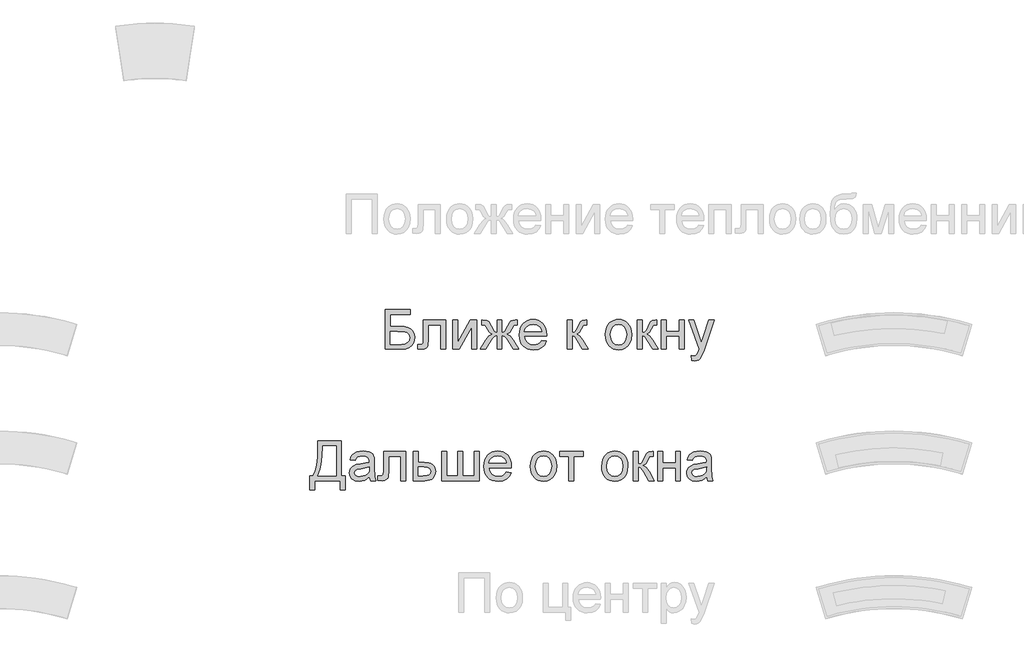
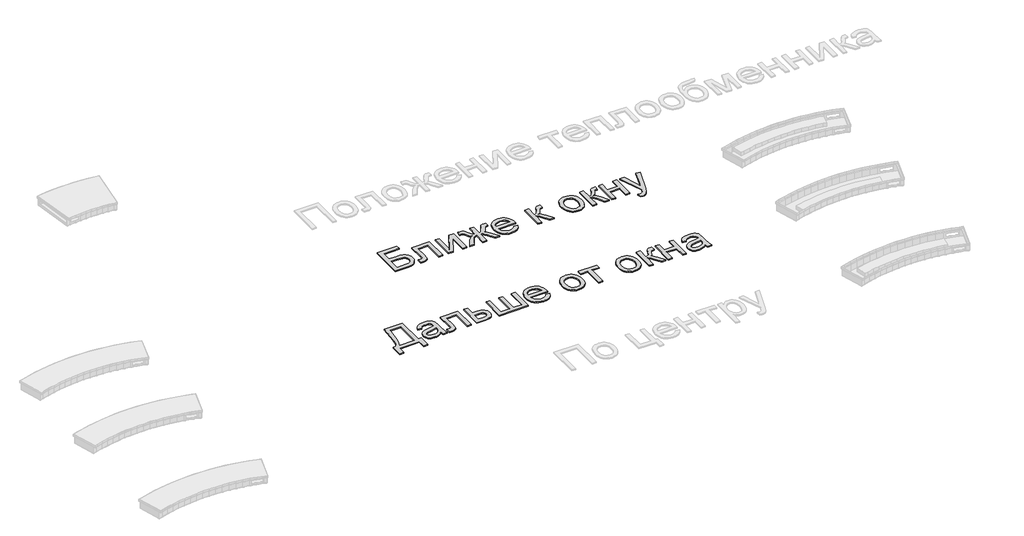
# One storey, part 7 of 9: 2 proxies.
"""IFC4 building model written with IfcOpenShell, lengths in millimetres."""

from ifc_helpers import new_model, si_unit, origin, origin_with_axes, place, context, project, spatial, polyline, outline, extrude, element, save

model = new_model("IFC4")

# Units and contexts
model_context = context("Model", 3, world=origin())
ifc_project = project(units=[si_unit("LENGTHUNIT", "METRE", prefix="MILLI")], contexts=[model_context])

# Site, building, storey
site = spatial("IfcSite", under=ifc_project)
building = spatial("IfcBuilding", under=site)
storey = spatial("IfcBuildingStorey", under=building, Name="Уровень 1", Elevation=0.0)

# Proxies
placement = place(None, origin())
element("IfcBuildingElementProxy", 1, Name="Текст модели 1", ObjectType="Текст модели 1", at=placement, inside=storey, context=model_context, shape_type="SweptSolid", body=[
    extrude(outline(polyline([(14364.4860682, -2424.9415006), (14552.8416498, -2424.9415006), (14552.8416498, -2462.6126169), (14402.1571845, -2462.6126169), (14402.1571845, -2552.0815182), (14472.7169512, -2552.0815182), (14507.7944994, -2553.9945045), (14534.8890084, -2559.7334637), (14555.6927352, -2570.7883176), (14571.8979371, -2588.6489885), (14582.3273917, -2611.6416132), (14585.8038765, -2638.0923286), (14583.3298701, -2660.3032041), (14575.9078509, -2681.0241575), (14563.574607, -2699.1699369), (14546.3669266, -2713.6552904), (14519.8242407, -2723.1466459), (14479.4859799, -2726.3104311), (14364.4860682, -2726.3104311), (14364.4860682, -2424.9415006)]), holes=[polyline([(14402.1571845, -2688.6393148), (14482.8704943, -2688.6393148), (14511.399743, -2685.5307119), (14531.7987996, -2676.2049033), (14544.0492701, -2660.661889), (14548.1327602, -2638.901669), (14545.7967095, -2622.6964671), (14538.7885575, -2609.397533), (14527.6141419, -2599.5382955), (14512.7793005, -2593.6521836), (14456.0151086, -2589.7526345), (14402.1571845, -2589.7526345), (14402.1571845, -2688.6393148)])]), origin_with_axes(), (0.0, 0.0, 1.0), 10.0),
    extrude(outline(polyline([(14651.7283301, -2504.9926228), (14821.2483534, -2504.9926228), (14821.2483534, -2726.0897019), (14783.5772371, -2726.0897019), (14783.5772371, -2542.6637391), (14689.3994464, -2542.6637391), (14689.3994464, -2648.2458717), (14686.8610606, -2696.9534479), (14682.1061858, -2707.9807107), (14672.918333, -2717.5180514), (14658.9756054, -2724.1123362), (14639.9561062, -2726.3104311), (14609.3483242, -2724.3974447), (14609.3483242, -2688.6393148), (14626.1973196, -2688.6393148), (14643.230256, -2686.3216582), (14650.0360729, -2678.9640183), (14651.7283301, -2646.1121561), (14651.7283301, -2504.9926228)])), origin_with_axes(), (0.0, 0.0, 1.0), 10.0),
    extrude(outline(polyline([(14877.7550279, -2504.9926228), (14915.4261442, -2504.9926228), (14915.4261442, -2673.7768822), (15007.9852542, -2504.9926228), (15056.6928303, -2504.9926228), (15056.6928303, -2726.3104311), (15019.021714, -2726.3104311), (15019.021714, -2558.5562413), (14927.0512152, -2726.3104311), (14877.7550279, -2726.3104311), (14877.7550279, -2504.9926228)])), origin_with_axes(), (0.0, 0.0, 1.0), 10.0),
    extrude(outline(polyline([(15249.7573014, -2504.9926228), (15249.7573014, -2599.1704135), (15263.0470385, -2597.229836), (15271.7198565, -2591.4081035), (15292.5051893, -2551.125025), (15305.4730296, -2526.0170788), (15317.3004357, -2512.4974155), (15331.6662276, -2506.868821), (15352.5435309, -2504.9926228), (15367.4795399, -2504.9926228), (15367.4795399, -2542.8844683), (15357.1052676, -2542.6637391), (15337.6810983, -2546.5632882), (15324.2166172, -2570.9906527), (15308.5816324, -2597.772462), (15286.2511953, -2611.3840958), (15298.6442201, -2616.686195), (15310.8808949, -2626.0441933), (15334.8851951, -2656.9278868), (15376.897319, -2726.3104311), (15333.7079727, -2726.3104311), (15292.3580365, -2657.88438), (15281.0548622, -2639.9225416), (15271.2783981, -2629.4471018), (15261.3915695, -2624.3979214), (15249.7573014, -2622.7148612), (15249.7573014, -2726.3104311), (15212.0861851, -2726.3104311), (15212.0861851, -2622.7148612), (15200.5438875, -2624.3611332), (15190.6386648, -2629.299949), (15180.7886244, -2639.7018124), (15169.4118737, -2657.7372272), (15128.0619374, -2726.3104311), (15084.9461676, -2726.3104311), (15126.8111386, -2656.9278868), (15150.9993798, -2626.0441933), (15163.300434, -2616.686195), (15175.739444, -2611.3840958), (15161.355258, -2604.1736087), (15152.0478435, -2596.3745104), (15131.7407574, -2557.7469009), (15121.8079435, -2545.0181839), (15105.5475593, -2542.4430099), (15094.3639467, -2542.6637391), (15094.3639467, -2504.9926228), (15100.0293294, -2504.9926228), (15133.0651325, -2507.3470676), (15150.2084335, -2517.3534578), (15169.4118737, -2551.125025), (15189.9764772, -2591.1505861), (15198.6492952, -2597.1654567), (15212.0861851, -2599.1704135), (15212.0861851, -2504.9926228), (15249.7573014, -2504.9926228)])), origin_with_axes(), (0.0, 0.0, 1.0), 10.0),
    extrude(outline(polyline([(15550.6847735, -2660.3859775), (15587.6201258, -2665.0948671), (15574.3119946, -2692.92514), (15553.0760064, -2713.7288668), (15524.3904079, -2726.6967072), (15488.7334455, -2731.0193206), (15465.3591432, -2729.1546188), (15444.5324238, -2723.5605132), (15426.2532871, -2714.2370039), (15410.5217333, -2701.1840908), (15397.8711912, -2684.7650575), (15388.8350897, -2665.3431874), (15383.4134288, -2642.9184806), (15381.6062085, -2617.4909369), (15383.4318229, -2591.2011698), (15388.9086661, -2568.0292027), (15398.0367381, -2547.9750354), (15410.8160389, -2531.038668), (15426.506206, -2517.5833841), (15444.3668769, -2507.9724669), (15464.3980515, -2502.2059167), (15486.5997299, -2500.2837332), (15508.0863377, -2502.2013181), (15527.5174048, -2507.9540728), (15544.8929313, -2517.5419973), (15560.2129171, -2530.9650916), (15572.7186057, -2547.8646708), (15581.6512404, -2567.8820499), (15587.0108212, -2591.0172288), (15588.7973482, -2617.2702077), (15588.576619, -2627.4237508), (15419.2773248, -2627.4237508), (15425.7980332, -2655.6219057), (15440.9455743, -2676.3520561), (15462.8069619, -2689.0991673), (15489.4692095, -2693.3482043), (15509.5187782, -2691.3800356), (15526.4045618, -2685.4755296), (15540.1265602, -2675.2668043), (15550.6847735, -2660.3859775)]), holes=[polyline([(15419.2773248, -2589.7526345), (15551.1262319, -2589.7526345), (15546.0310662, -2569.8502185), (15536.0430701, -2555.6131853), (15514.080515, -2542.3694335), (15486.4525771, -2537.9548496), (15461.0595224, -2541.4773197), (15440.0626575, -2552.04473), (15425.4669394, -2568.5166463), (15419.2773248, -2589.7526345)])]), origin_with_axes(), (0.0, 0.0, 1.0), 10.0),
    extrude(outline(polyline([(15744.1907029, -2504.9926228), (15781.8618192, -2504.9926228), (15781.8618192, -2599.1704135), (15797.1841043, -2597.4781564), (15807.0985241, -2592.4013848), (15815.8725097, -2579.157633), (15827.7734922, -2552.964435), (15844.9535814, -2518.9353504), (15860.1103196, -2507.8621023), (15887.6646811, -2504.9926228), (15894.8751682, -2504.9926228), (15894.8751682, -2542.8844683), (15884.7216251, -2542.6637391), (15866.3275253, -2546.6368646), (15853.3780791, -2571.4321111), (15838.1845527, -2598.2507086), (15816.8841852, -2611.3840958), (15828.8219559, -2616.686195), (15840.6493621, -2626.0441933), (15863.9730806, -2656.9278868), (15904.2929472, -2726.3104311), (15861.471483, -2726.3104311), (15821.9609567, -2658.3994148), (15802.095329, -2629.6678309), (15792.8063086, -2624.4531037), (15781.8618192, -2622.7148612), (15781.8618192, -2726.3104311), (15744.1907029, -2726.3104311), (15744.1907029, -2504.9926228)])), origin_with_axes(), (0.0, 0.0, 1.0), 10.0),
    extrude(outline(polyline([(16036.1418543, -2615.6515269), (16038.1790009, -2586.988921), (16044.2904405, -2562.2902435), (16054.4761732, -2541.5554946), (16068.7361991, -2524.7846741), (16083.0927939, -2514.0655125), (16098.9393109, -2506.4089685), (16116.2757499, -2501.815042), (16135.102111, -2500.2837332), (16155.8851445, -2502.1484351), (16174.6770166, -2507.7425407), (16191.4777275, -2517.06605), (16206.2872771, -2530.1189631), (16218.3744999, -2546.4598214), (16227.0082305, -2565.6471667), (16232.1884688, -2587.680999), (16233.9152149, -2612.5613182), (16230.8617944, -2650.6187106), (16221.7015327, -2679.5894177), (16206.7011443, -2701.2852584), (16186.1273437, -2717.5180514), (16161.6907822, -2727.6440033), (16135.102111, -2731.0193206), (16114.0155749, -2729.1615165), (16095.0489588, -2723.5881043), (16078.2022627, -2714.2990839), (16063.4754865, -2701.2944554), (16051.5170224, -2684.7949479), (16042.9752624, -2665.0212907), (16037.8502063, -2641.9734837), (16036.1418543, -2615.6515269)]), holes=[polyline([(16073.8129706, -2615.5779505), (16078.1723723, -2649.6714144), (16091.2505772, -2673.9608232), (16110.9322639, -2688.501359), (16135.102111, -2693.3482043), (16159.1615935, -2688.4737679), (16178.806492, -2673.8504586), (16191.884697, -2649.2391531), (16196.2440986, -2614.4007281), (16191.8571058, -2581.3005456), (16178.6961274, -2557.3422307), (16159.0236377, -2542.8016948), (16135.102111, -2537.9548496), (16110.9322639, -2542.7833007), (16091.2505772, -2557.2686543), (16078.1723723, -2581.5028807), (16073.8129706, -2615.5779505)])]), origin_with_axes(), (0.0, 0.0, 1.0), 10.0),
    extrude(outline(polyline([(16276.2952208, -2504.9926228), (16313.9663371, -2504.9926228), (16313.9663371, -2599.1704135), (16329.2886222, -2597.4781564), (16339.2030419, -2592.4013848), (16347.9770275, -2579.157633), (16359.8780101, -2552.964435), (16377.0580992, -2518.9353504), (16392.2148374, -2507.8621023), (16419.7691989, -2504.9926228), (16426.979686, -2504.9926228), (16426.979686, -2542.8844683), (16416.8261429, -2542.6637391), (16398.4320432, -2546.6368646), (16385.4825969, -2571.4321111), (16370.2890705, -2598.2507086), (16348.988703, -2611.3840958), (16360.9264737, -2616.686195), (16372.7538799, -2626.0441933), (16396.0775984, -2656.9278868), (16436.3974651, -2726.3104311), (16393.5760008, -2726.3104311), (16354.0654745, -2658.3994148), (16334.1998468, -2629.6678309), (16324.9108264, -2624.4531037), (16313.9663371, -2622.7148612), (16313.9663371, -2726.3104311), (16276.2952208, -2726.3104311), (16276.2952208, -2504.9926228)])), origin_with_axes(), (0.0, 0.0, 1.0), 10.0),
    extrude(outline(polyline([(16459.9419128, -2504.9926228), (16497.6130291, -2504.9926228), (16497.6130291, -2589.7526345), (16596.4997094, -2589.7526345), (16596.4997094, -2504.9926228), (16634.1708257, -2504.9926228), (16634.1708257, -2726.3104311), (16596.4997094, -2726.3104311), (16596.4997094, -2627.4237508), (16497.6130291, -2627.4237508), (16497.6130291, -2726.3104311), (16459.9419128, -2726.3104311), (16459.9419128, -2504.9926228)])), origin_with_axes(), (0.0, 0.0, 1.0), 10.0),
    extrude(outline(polyline([(16690.6775001, -2811.0704428), (16685.9686106, -2774.797278), (16705.0984743, -2778.108216), (16722.9775393, -2773.9511495), (16733.9404228, -2762.3628666), (16744.2411186, -2734.6245642), (16747.1841746, -2725.5010907), (16667.1330524, -2504.9926228), (16706.8643079, -2504.9926228), (16749.3178902, -2627.8652092), (16764.1067464, -2677.0142437), (16778.8956026, -2633.6041683), (16822.5264072, -2504.9926228), (16861.9633571, -2504.9926228), (16784.9288673, -2731.6079318), (16764.9160868, -2780.7569664), (16754.6705732, -2796.4471335), (16743.0638962, -2807.3180464), (16729.5810211, -2813.6640108), (16713.706913, -2815.7793323), (16690.6775001, -2811.0704428)])), origin_with_axes(), (0.0, 0.0, 1.0), 10.0),
])
element("IfcBuildingElementProxy", 2, Name="Текст модели 1", ObjectType="Текст модели 1", at=placement, inside=storey, context=model_context, shape_type="SweptSolid", body=[
    extrude(outline(polyline([(13851.2171086, -3424.9415006), (14030.154911, -3424.9415006), (14030.154911, -3688.6393148), (14058.4082482, -3688.6393148), (14058.4082482, -3796.9437742), (14020.7371319, -3796.9437742), (14020.7371319, -3726.3104311), (13827.6726609, -3726.3104311), (13827.6726609, -3796.9437742), (13790.0015446, -3796.9437742), (13790.0015446, -3688.6393148), (13813.5459922, -3688.6393148), (13830.0271056, -3654.4676759), (13841.7993295, -3606.3992948), (13848.8626638, -3544.4341712), (13851.2171086, -3468.5723053), (13851.2171086, -3424.9415006)]), holes=[polyline([(13992.4837947, -3462.6126169), (13888.8882249, -3462.6126169), (13888.8882249, -3477.7693551), (13881.2362794, -3580.997043), (13869.9055139, -3640.6491085), (13851.2171086, -3688.6393148), (13992.4837947, -3688.6393148), (13992.4837947, -3462.6126169)])]), origin_with_axes(), (0.0, 0.0, 1.0), 10.0),
    extrude(outline(polyline([(14242.0549402, -3698.0570939), (14224.0563136, -3713.4897435), (14205.5242581, -3723.5881043), (14186.0357094, -3729.1615165), (14165.1676032, -3731.0193206), (14133.6861015, -3726.5495544), (14110.4635506, -3713.1402557), (14096.1437439, -3692.7779872), (14091.370475, -3667.4493119), (14093.1730968, -3651.8327212), (14098.5809621, -3637.6508702), (14106.9226864, -3625.5107644), (14117.5268849, -3616.0194089), (14143.9040239, -3603.6585739), (14176.4983687, -3597.9931912), (14215.0156136, -3592.0335028), (14241.834211, -3585.0437449), (14242.0549402, -3576.6560354), (14239.4613722, -3559.8438283), (14231.680668, -3548.8441566), (14214.2798496, -3540.6771763), (14190.0364261, -3537.9548496), (14167.5956244, -3539.7666684), (14151.9238514, -3545.2021249), (14141.2368795, -3555.2545004), (14133.7504808, -3570.9170763), (14096.0793645, -3566.2081868), (14102.618467, -3545.6067951), (14112.3765369, -3529.4199873), (14126.2640822, -3517.0407581), (14145.1916109, -3507.8621023), (14168.3405854, -3502.1783255), (14194.8924684, -3500.2837332), (14220.3590996, -3501.9575963), (14240.546624, -3506.9791856), (14255.7677416, -3514.5299635), (14266.3351519, -3523.7913927), (14273.3433039, -3535.2417198), (14277.8866466, -3549.3591914), (14279.7260565, -3582.3214182), (14279.7260565, -3629.1895844), (14281.6390429, -3694.6357913), (14289.1438356, -3726.3104311), (14251.4727193, -3726.3104311), (14242.0549402, -3698.0570939)]), holes=[polyline([(14242.0549402, -3622.7148612), (14181.2808346, -3634.2663559), (14148.8704309, -3640.373197), (14134.1919392, -3650.3060109), (14129.0415913, -3664.8005615), (14131.8466915, -3676.0025682), (14140.2619922, -3685.181224), (14154.1035522, -3691.3064592), (14173.1874307, -3693.3482043), (14193.4209405, -3691.0949271), (14211.3000054, -3684.3350954), (14225.794556, -3674.3746904), (14235.8745227, -3662.5196931), (14240.344289, -3650.3060109), (14241.834211, -3633.3834391), (14242.0549402, -3622.7148612)])]), origin_with_axes(), (0.0, 0.0, 1.0), 10.0),
    extrude(outline(polyline([(14350.3593996, -3504.9926228), (14519.879423, -3504.9926228), (14519.879423, -3726.0897019), (14482.2083067, -3726.0897019), (14482.2083067, -3542.6637391), (14388.0305159, -3542.6637391), (14388.0305159, -3648.2458717), (14385.4921301, -3696.9534479), (14380.7372554, -3707.9807107), (14371.5494025, -3717.5180514), (14357.6066749, -3724.1123362), (14338.5871758, -3726.3104311), (14307.9793938, -3724.3974447), (14307.9793938, -3688.6393148), (14324.8283891, -3688.6393148), (14341.8613255, -3686.3216582), (14348.6671424, -3678.9640183), (14350.3593996, -3646.1121561), (14350.3593996, -3504.9926228)])), origin_with_axes(), (0.0, 0.0, 1.0), 10.0),
    extrude(outline(polyline([(14576.3860974, -3504.9926228), (14614.0572138, -3504.9926228), (14614.0572138, -3585.0437449), (14657.4672892, -3585.0437449), (14695.1016173, -3589.7618315), (14710.2491584, -3595.6594398), (14722.9502843, -3603.9160913), (14732.9934628, -3614.2466776), (14740.1671617, -3626.36609), (14745.9061208, -3655.9713936), (14741.0224873, -3682.9279468), (14726.3715869, -3705.6722512), (14715.1396897, -3714.7014549), (14700.9785322, -3721.1508861), (14663.8684359, -3726.3104311), (14576.3860974, -3726.3104311), (14576.3860974, -3504.9926228)]), holes=[polyline([(14614.0572138, -3688.6393148), (14649.2267325, -3688.6393148), (14676.5143795, -3686.6619491), (14694.6601589, -3680.7298519), (14704.8412931, -3670.6039), (14708.2350045, -3656.04497), (14705.7242099, -3643.7393173), (14698.191826, -3632.8684043), (14682.0510035, -3625.253247), (14653.7148928, -3622.7148612), (14614.0572138, -3622.7148612), (14614.0572138, -3688.6393148)])]), origin_with_axes(), (0.0, 0.0, 1.0), 10.0),
    extrude(outline(polyline([(14792.9950162, -3504.9926228), (14830.6661325, -3504.9926228), (14830.6661325, -3688.6393148), (14915.4261442, -3688.6393148), (14915.4261442, -3504.9926228), (14953.0972605, -3504.9926228), (14953.0972605, -3688.6393148), (15037.8572722, -3688.6393148), (15037.8572722, -3504.9926228), (15075.5283885, -3504.9926228), (15075.5283885, -3726.3104311), (14792.9950162, -3726.3104311), (14792.9950162, -3504.9926228)])), origin_with_axes(), (0.0, 0.0, 1.0), 10.0),
    extrude(outline(polyline([(15282.2780698, -3660.3859775), (15319.2134221, -3665.0948671), (15305.9052909, -3692.92514), (15284.6693028, -3713.7288668), (15255.9837042, -3726.6967072), (15220.3267418, -3731.0193206), (15196.9524395, -3729.1546188), (15176.1257201, -3723.5605132), (15157.8465834, -3714.2370039), (15142.1150296, -3701.1840908), (15129.4644875, -3684.7650575), (15120.428386, -3665.3431874), (15115.0067251, -3642.9184806), (15113.1995048, -3617.4909369), (15115.0251192, -3591.2011698), (15120.5019624, -3568.0292027), (15129.6300344, -3547.9750354), (15142.4093352, -3531.038668), (15158.0995023, -3517.5833841), (15175.9601732, -3507.9724669), (15195.9913478, -3502.2059167), (15218.1930262, -3500.2837332), (15239.679634, -3502.2013181), (15259.1107011, -3507.9540728), (15276.4862276, -3517.5419973), (15291.8062135, -3530.9650916), (15304.311902, -3547.8646708), (15313.2445367, -3567.8820499), (15318.6041176, -3591.0172288), (15320.3906445, -3617.2702077), (15320.1699153, -3627.4237508), (15150.8706211, -3627.4237508), (15157.3913295, -3655.6219057), (15172.5388706, -3676.3520561), (15194.4002582, -3689.0991673), (15221.0625058, -3693.3482043), (15241.1120745, -3691.3800356), (15257.9978581, -3685.4755296), (15271.7198565, -3675.2668043), (15282.2780698, -3660.3859775)]), holes=[polyline([(15150.8706211, -3589.7526345), (15282.7195282, -3589.7526345), (15277.6243626, -3569.8502185), (15267.6363664, -3555.6131853), (15245.6738113, -3542.3694335), (15218.0458734, -3537.9548496), (15192.6528187, -3541.4773197), (15171.6559538, -3552.04473), (15157.0602357, -3568.5166463), (15150.8706211, -3589.7526345)])]), origin_with_axes(), (0.0, 0.0, 1.0), 10.0),
    extrude(outline(polyline([(15466.3662202, -3615.6515269), (15468.4033667, -3586.988921), (15474.5148064, -3562.2902435), (15484.7005391, -3541.5554946), (15498.9605649, -3524.7846741), (15513.3171598, -3514.0655125), (15529.1636768, -3506.4089685), (15546.5001158, -3501.815042), (15565.3264769, -3500.2837332), (15586.1095103, -3502.1484351), (15604.9013825, -3507.7425407), (15621.7020934, -3517.06605), (15636.5116429, -3530.1189631), (15648.5988658, -3546.4598214), (15657.2325963, -3565.6471667), (15662.4128347, -3587.680999), (15664.1395808, -3612.5613182), (15661.0861602, -3650.6187106), (15651.9258985, -3679.5894177), (15636.9255102, -3701.2852584), (15616.3517096, -3717.5180514), (15591.9151481, -3727.6440033), (15565.3264769, -3731.0193206), (15544.2399408, -3729.1615165), (15525.2733247, -3723.5881043), (15508.4266285, -3714.2990839), (15493.6998524, -3701.2944554), (15481.7413883, -3684.7949479), (15473.1996282, -3665.0212907), (15468.0745722, -3641.9734837), (15466.3662202, -3615.6515269)]), holes=[polyline([(15504.0373365, -3615.5779505), (15508.3967381, -3649.6714144), (15521.4749431, -3673.9608232), (15541.1566298, -3688.501359), (15565.3264769, -3693.3482043), (15589.3859594, -3688.4737679), (15609.0308579, -3673.8504586), (15622.1090628, -3649.2391531), (15626.4684645, -3614.4007281), (15622.0814717, -3581.3005456), (15608.9204933, -3557.3422307), (15589.2480036, -3542.8016948), (15565.3264769, -3537.9548496), (15541.1566298, -3542.7833007), (15521.4749431, -3557.2686543), (15508.3967381, -3581.5028807), (15504.0373365, -3615.5779505)])]), origin_with_axes(), (0.0, 0.0, 1.0), 10.0),
    extrude(outline(polyline([(15687.6840285, -3504.9926228), (15866.6218309, -3504.9926228), (15866.6218309, -3542.6637391), (15795.9884879, -3542.6637391), (15795.9884879, -3726.3104311), (15758.3173715, -3726.3104311), (15758.3173715, -3542.6637391), (15687.6840285, -3542.6637391), (15687.6840285, -3504.9926228)])), origin_with_axes(), (0.0, 0.0, 1.0), 10.0),
    extrude(outline(polyline([(16007.8885171, -3615.6515269), (16009.9256636, -3586.988921), (16016.0371033, -3562.2902435), (16026.222836, -3541.5554946), (16040.4828619, -3524.7846741), (16054.8394567, -3514.0655125), (16070.6859737, -3506.4089685), (16088.0224127, -3501.815042), (16106.8487738, -3500.2837332), (16127.6318072, -3502.1484351), (16146.4236794, -3507.7425407), (16163.2243903, -3517.06605), (16178.0339398, -3530.1189631), (16190.1211627, -3546.4598214), (16198.7548932, -3565.6471667), (16203.9351316, -3587.680999), (16205.6618777, -3612.5613182), (16202.6084571, -3650.6187106), (16193.4481954, -3679.5894177), (16178.4478071, -3701.2852584), (16157.8740065, -3717.5180514), (16133.437445, -3727.6440033), (16106.8487738, -3731.0193206), (16085.7622377, -3729.1615165), (16066.7956216, -3723.5881043), (16049.9489254, -3714.2990839), (16035.2221493, -3701.2944554), (16023.2636852, -3684.7949479), (16014.7219251, -3665.0212907), (16009.5968691, -3641.9734837), (16007.8885171, -3615.6515269)]), holes=[polyline([(16045.5596334, -3615.5779505), (16049.919035, -3649.6714144), (16062.99724, -3673.9608232), (16082.6789267, -3688.501359), (16106.8487738, -3693.3482043), (16130.9082563, -3688.4737679), (16150.5531548, -3673.8504586), (16163.6313597, -3649.2391531), (16167.9907614, -3614.4007281), (16163.6037686, -3581.3005456), (16150.4427902, -3557.3422307), (16130.7703005, -3542.8016948), (16106.8487738, -3537.9548496), (16082.6789267, -3542.7833007), (16062.99724, -3557.2686543), (16049.919035, -3581.5028807), (16045.5596334, -3615.5779505)])]), origin_with_axes(), (0.0, 0.0, 1.0), 10.0),
    extrude(outline(polyline([(16248.0418835, -3504.9926228), (16285.7129998, -3504.9926228), (16285.7129998, -3599.1704135), (16301.0352849, -3597.4781564), (16310.9497047, -3592.4013848), (16319.7236903, -3579.157633), (16331.6246728, -3552.964435), (16348.804762, -3518.9353504), (16363.9615002, -3507.8621023), (16391.5158616, -3504.9926228), (16398.7263488, -3504.9926228), (16398.7263488, -3542.8844683), (16388.5728057, -3542.6637391), (16370.1787059, -3546.6368646), (16357.2292597, -3571.4321111), (16342.0357333, -3598.2507086), (16320.7353658, -3611.3840958), (16332.6731365, -3616.686195), (16344.5005427, -3626.0441933), (16367.8242612, -3656.9278868), (16408.1441278, -3726.3104311), (16365.3226636, -3726.3104311), (16325.8121373, -3658.3994148), (16305.9465096, -3629.6678309), (16296.6574892, -3624.4531037), (16285.7129998, -3622.7148612), (16285.7129998, -3726.3104311), (16248.0418835, -3726.3104311), (16248.0418835, -3504.9926228)])), origin_with_axes(), (0.0, 0.0, 1.0), 10.0),
    extrude(outline(polyline([(16431.6885755, -3504.9926228), (16469.3596918, -3504.9926228), (16469.3596918, -3589.7526345), (16568.2463721, -3589.7526345), (16568.2463721, -3504.9926228), (16605.9174884, -3504.9926228), (16605.9174884, -3726.3104311), (16568.2463721, -3726.3104311), (16568.2463721, -3627.4237508), (16469.3596918, -3627.4237508), (16469.3596918, -3726.3104311), (16431.6885755, -3726.3104311), (16431.6885755, -3504.9926228)])), origin_with_axes(), (0.0, 0.0, 1.0), 10.0),
    extrude(outline(polyline([(16803.690849, -3698.0570939), (16785.6922224, -3713.4897435), (16767.1601669, -3723.5881043), (16747.6716182, -3729.1615165), (16726.8035121, -3731.0193206), (16695.3220103, -3726.5495544), (16672.0994594, -3713.1402557), (16657.7796527, -3692.7779872), (16653.0063838, -3667.4493119), (16654.8090056, -3651.8327212), (16660.2168709, -3637.6508702), (16668.5585952, -3625.5107644), (16679.1627937, -3616.0194089), (16705.5399327, -3603.6585739), (16738.1342775, -3597.9931912), (16776.6515224, -3592.0335028), (16803.4701198, -3585.0437449), (16803.690849, -3576.6560354), (16801.097281, -3559.8438283), (16793.3165768, -3548.8441566), (16775.9157584, -3540.6771763), (16751.6723349, -3537.9548496), (16729.2315332, -3539.7666684), (16713.5597602, -3545.2021249), (16702.8727883, -3555.2545004), (16695.3863897, -3570.9170763), (16657.7152734, -3566.2081868), (16664.2543758, -3545.6067951), (16674.0124457, -3529.4199873), (16687.8999911, -3517.0407581), (16706.8275197, -3507.8621023), (16729.9764943, -3502.1783255), (16756.5283773, -3500.2837332), (16781.9950084, -3501.9575963), (16802.1825329, -3506.9791856), (16817.4036504, -3514.5299635), (16827.9710607, -3523.7913927), (16834.9792127, -3535.2417198), (16839.5225554, -3549.3591914), (16841.3619653, -3582.3214182), (16841.3619653, -3629.1895844), (16843.2749517, -3694.6357913), (16850.7797444, -3726.3104311), (16813.1086281, -3726.3104311), (16803.690849, -3698.0570939)]), holes=[polyline([(16803.690849, -3622.7148612), (16742.9167434, -3634.2663559), (16710.5063397, -3640.373197), (16695.8278481, -3650.3060109), (16690.6775001, -3664.8005615), (16693.4826003, -3676.0025682), (16701.897901, -3685.181224), (16715.739461, -3691.3064592), (16734.8233395, -3693.3482043), (16755.0568493, -3691.0949271), (16772.9359142, -3684.3350954), (16787.4304649, -3674.3746904), (16797.5104315, -3662.5196931), (16801.9801978, -3650.3060109), (16803.4701198, -3633.3834391), (16803.690849, -3622.7148612)])]), origin_with_axes(), (0.0, 0.0, 1.0), 10.0),
])

save(model, "model.ifc")
